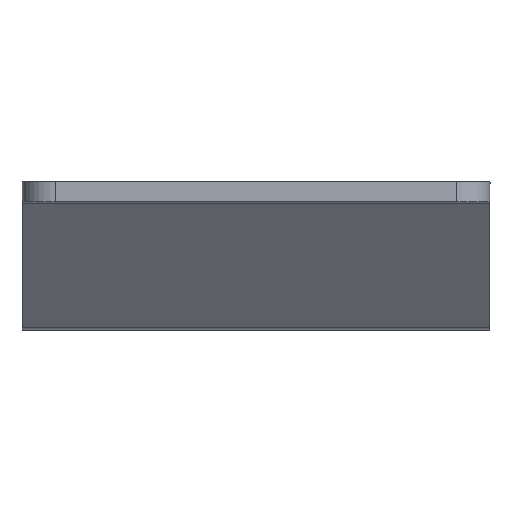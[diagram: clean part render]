
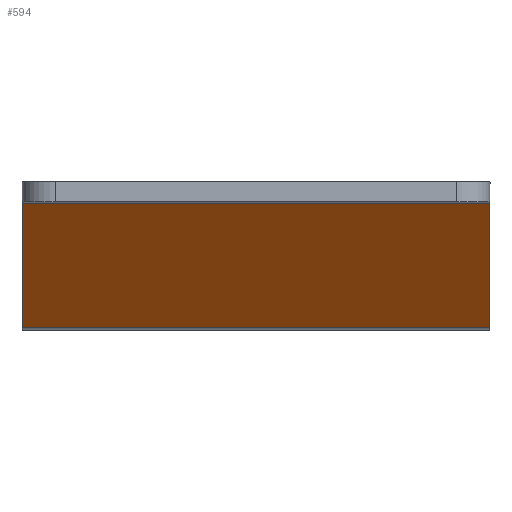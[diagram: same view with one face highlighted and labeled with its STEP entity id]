
A CAD part, front view. The second image highlights one B-rep face of the part: STEP entity #594.
In plain terms, the highlighted planar face has unit normal (0, -0.342, -0.94).
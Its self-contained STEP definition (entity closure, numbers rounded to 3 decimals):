
#36=PLANE('',#679);
#66=FACE_OUTER_BOUND('',#104,.T.);
#104=EDGE_LOOP('',(#545,#546,#547,#548));
#108=LINE('',#876,#160);
#129=LINE('',#952,#181);
#144=LINE('',#995,#196);
#156=LINE('',#1027,#208);
#160=VECTOR('',#697,10.);
#181=VECTOR('',#770,10.);
#196=VECTOR('',#815,10.);
#208=VECTOR('',#855,10.);
#245=VERTEX_POINT('',#869);
#248=VERTEX_POINT('',#874);
#277=VERTEX_POINT('',#951);
#289=VERTEX_POINT('',#991);
#304=EDGE_CURVE('',#245,#248,#108,.T.);
#341=EDGE_CURVE('',#245,#277,#129,.T.);
#364=EDGE_CURVE('',#289,#277,#144,.T.);
#380=EDGE_CURVE('',#289,#248,#156,.T.);
#545=ORIENTED_EDGE('',*,*,#304,.T.);
#546=ORIENTED_EDGE('',*,*,#380,.F.);
#547=ORIENTED_EDGE('',*,*,#364,.T.);
#548=ORIENTED_EDGE('',*,*,#341,.F.);
#594=ADVANCED_FACE('',(#66),#36,.F.);
#679=AXIS2_PLACEMENT_3D('',#1028,#856,#857);
#697=DIRECTION('',(-1.,0.,0.));
#770=DIRECTION('',(0.,0.94,-0.342));
#815=DIRECTION('',(1.,0.,0.));
#855=DIRECTION('',(0.,-0.94,0.342));
#856=DIRECTION('center_axis',(0.,0.342,0.94));
#857=DIRECTION('ref_axis',(1.,0.,0.));
#869=CARTESIAN_POINT('',(70.,34.272,-0.181));
#874=CARTESIAN_POINT('',(0.,34.272,-0.181));
#876=CARTESIAN_POINT('',(17.5,34.272,-0.181));
#951=CARTESIAN_POINT('',(70.,85.478,-18.818));
#952=CARTESIAN_POINT('',(70.,1.614,11.706));
#991=CARTESIAN_POINT('',(0.,85.478,-18.818));
#995=CARTESIAN_POINT('',(17.5,85.478,-18.818));
#1027=CARTESIAN_POINT('',(0.,179.216,-52.936));
#1028=CARTESIAN_POINT('Origin',(35.,90.415,-20.615));
